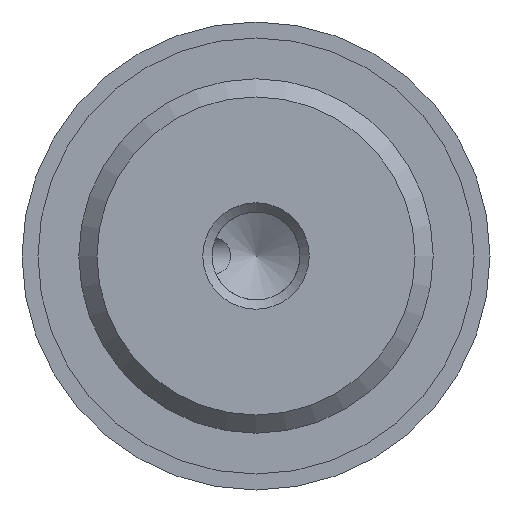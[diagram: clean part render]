
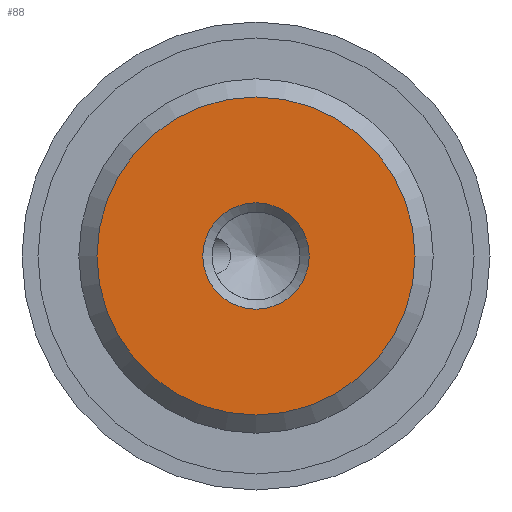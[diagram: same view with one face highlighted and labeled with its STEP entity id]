
A CAD part, front view. The second image highlights one B-rep face of the part: STEP entity #88.
In plain terms, the highlighted planar face has unit normal (0, -1, 0).
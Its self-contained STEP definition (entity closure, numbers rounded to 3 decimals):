
#88 = ADVANCED_FACE( '', ( #136, #137 ), #138, .F. );
#136 = FACE_BOUND( '', #202, .T. );
#137 = FACE_OUTER_BOUND( '', #203, .T. );
#138 = PLANE( '', #204 );
#202 = EDGE_LOOP( '', ( #316 ) );
#203 = EDGE_LOOP( '', ( #317 ) );
#204 = AXIS2_PLACEMENT_3D( '', #318, #319, #320 );
#316 = ORIENTED_EDGE( '', *, *, #434, .F. );
#317 = ORIENTED_EDGE( '', *, *, #435, .T. );
#318 = CARTESIAN_POINT( '', ( 7.475, 0., 0. ) );
#319 = DIRECTION( '', ( 0., 1., 0. ) );
#320 = DIRECTION( '', ( 0., 0., 1. ) );
#434 = EDGE_CURVE( '', #503, #503, #504, .T. );
#435 = EDGE_CURVE( '', #505, #505, #506, .T. );
#503 = VERTEX_POINT( '', #700 );
#504 = CIRCLE( '', #701, 2.5 );
#505 = VERTEX_POINT( '', #702 );
#506 = CIRCLE( '', #703, 7.475 );
#700 = CARTESIAN_POINT( '', ( 2.5, 0., 0. ) );
#701 = AXIS2_PLACEMENT_3D( '', #778, #779, #780 );
#702 = CARTESIAN_POINT( '', ( 0., 0., -7.475 ) );
#703 = AXIS2_PLACEMENT_3D( '', #781, #782, #783 );
#778 = CARTESIAN_POINT( '', ( 0., 0., 0. ) );
#779 = DIRECTION( '', ( 0., -1., 0. ) );
#780 = DIRECTION( '', ( 1., 0., 0. ) );
#781 = CARTESIAN_POINT( '', ( 0., 0., 0. ) );
#782 = DIRECTION( '', ( 0., -1., 0. ) );
#783 = DIRECTION( '', ( 0., 0., -1. ) );
